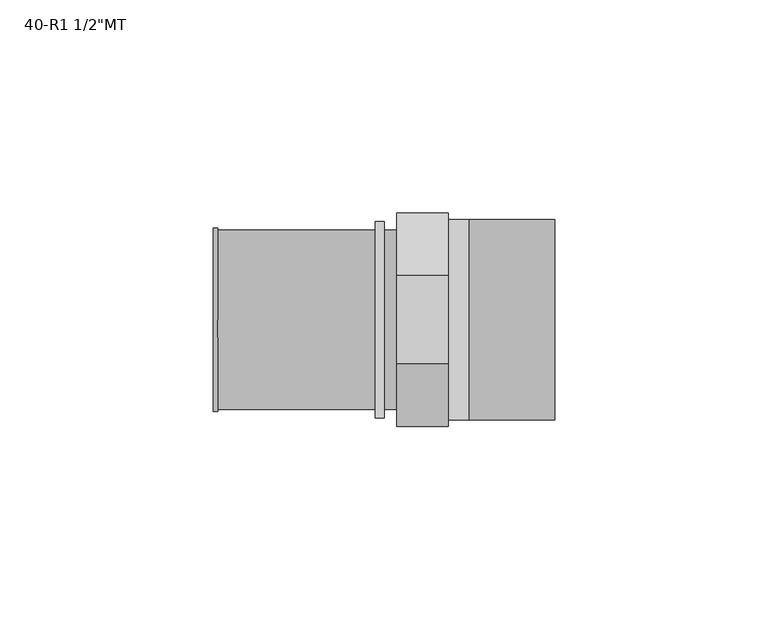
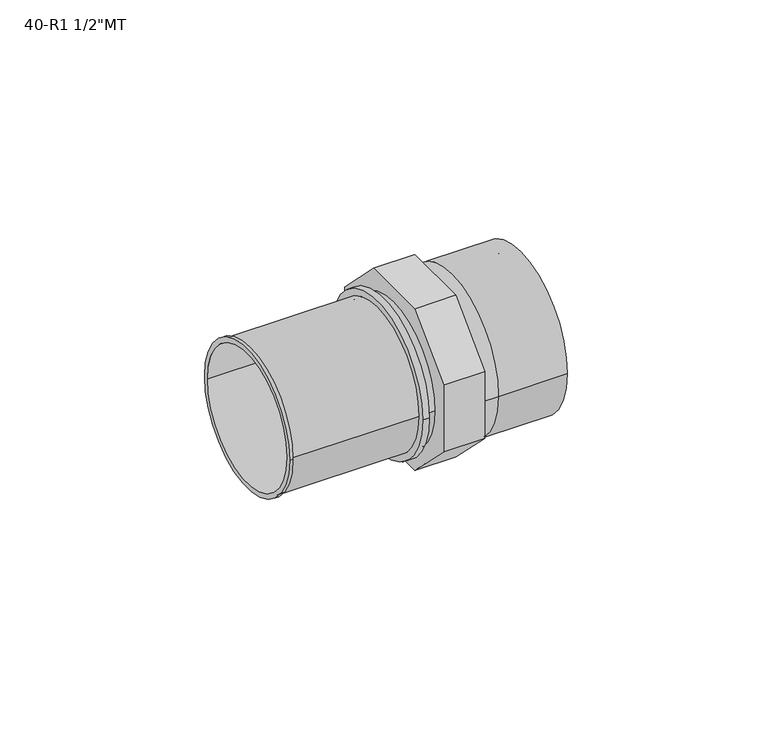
"""IFC4 building model written with IfcOpenShell, lengths in millimetres: pipe fitting geometry."""

from ifc_helpers import new_model, si_unit, point, frame, origin, origin_2d, place, context, project, spatial, polyline, circle_curve, trimmed, segment, composite_curve, outline, extrude, source, transform, mapped, element, save
from ifc_brep_helpers import plane_surface, cylinder_surface, revolved_surface, advanced_brep


def pipe_fitting_285861eb(model_context):
    return source(origin(), model_context, "Body", "SolidModel", [
        advanced_brep(
        [(-6.0, -25.0, 10.3553391), (-6.0, -10.3553391, 25.0), (-6.0, 10.3553391, 25.0), (-6.0, 25.0, 10.3553391), (-6.0, 25.0, -10.3553391), (-6.0, 10.3553391, -25.0), (-6.0, -10.3553391, -25.0), (-6.0, -25.0, -10.3553391), (6.0, -25.0, 10.3553391), (6.0, -25.0, -10.3553391), (6.0, -10.3553391, -25.0), (6.0, 10.3553391, -25.0), (6.0, 25.0, -10.3553391), (6.0, 25.0, 10.3553391), (6.0, 10.3553391, 25.0), (6.0, -10.3553391, 25.0), (6.0, -23.5, 0.0), (6.0, 23.5, 0.0), (31.0, -23.5, 0.0), (31.0, 23.5, 0.0), (31.0, -19.5, 0.0), (31.0, 19.5, 0.0), (12.0, 19.5, 0.0), (12.0, -19.5, 0.0), (12.0, 23.5, 0.0), (11.0, 23.5, 0.0), (11.0, -23.5, 0.0), (12.0, -23.5, 0.0)],
        [
            (0, 1),
            (1, 2),
            (2, 3),
            (3, 4),
            (4, 5),
            (5, 6),
            (6, 7),
            (7, 0),
            (8, 9),
            (9, 10),
            (10, 11),
            (11, 12),
            (12, 13),
            (13, 14),
            (14, 15),
            (15, 8),
            (16, 17, circle_curve(frame((6.0, 0.0, 0.0), z_axis=(-1.0, 0.0, 0.0), x_axis=(0.0, -1.0, 0.0)), 23.5)),
            (17, 16, circle_curve(frame((6.0, 0.0, 0.0), z_axis=(-1.0, 0.0, 0.0), x_axis=(0.0, -1.0, 0.0)), 23.5)),
            (0, 8),
            (15, 1),
            (14, 2),
            (13, 3),
            (12, 4),
            (11, 5),
            (10, 6),
            (9, 7),
            (18, 19, circle_curve(frame((31.0, 0.0, 0.0), z_axis=(1.0, 0.0, 0.0), x_axis=(0.0, 1.0, 0.0)), 23.5)),
            (19, 18, circle_curve(frame((31.0, 0.0, 0.0), z_axis=(1.0, 0.0, 0.0), x_axis=(0.0, 1.0, 0.0)), 23.5)),
            (20, 21, circle_curve(frame((31.0, 0.0, 0.0), z_axis=(-1.0, 0.0, 0.0), x_axis=(0.0, 1.0, 0.0)), 19.5)),
            (21, 20, circle_curve(frame((31.0, 0.0, 0.0), z_axis=(-1.0, 0.0, 0.0), x_axis=(0.0, 1.0, 0.0)), 19.5)),
            (21, 22),
            (22, 23, circle_curve(frame((12.0, 0.0, 0.0), z_axis=(-1.0, 0.0, 0.0), x_axis=(0.0, 1.0, 0.0)), 19.5)),
            (23, 20),
            (23, 22, circle_curve(frame((12.0, 0.0, 0.0), z_axis=(-1.0, 0.0, 0.0), x_axis=(0.0, 1.0, 0.0)), 19.5)),
            (19, 24),
            (24, 25),
            (25, 26, circle_curve(frame((11.0, 0.0, 0.0), z_axis=(1.0, 0.0, 0.0), x_axis=(0.0, 1.0, 0.0)), 23.5)),
            (26, 27),
            (27, 18),
            (26, 25, circle_curve(frame((11.0, 0.0, 0.0), z_axis=(1.0, 0.0, 0.0), x_axis=(0.0, 1.0, 0.0)), 23.5)),
            (16, 26),
            (25, 17),
        ],
        [
            plane_surface(frame((-6.0, 0.0, 0.0), z_axis=(-1.0, 0.0, 0.0), x_axis=(0.0, 0.0, 1.0))),
            plane_surface(frame((6.0, 0.0, 0.0), z_axis=(1.0, 0.0, 0.0), x_axis=(0.0, 0.0, 1.0))),
            plane_surface(frame((-6.0, -25.0, 10.3553391), z_axis=(0.0, -0.7071067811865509, 0.7071067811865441), x_axis=(1.0, 0.0, 0.0))),
            plane_surface(frame((-6.0, -10.3553391, 25.0), z_axis=(0.0, 0.0, 1.0), x_axis=(1.0, 0.0, 0.0))),
            plane_surface(frame((-6.0, 10.3553391, 25.0), z_axis=(0.0, 0.707106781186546, 0.7071067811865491), x_axis=(1.0, 0.0, 0.0))),
            plane_surface(frame((-6.0, 25.0, 10.3553391), z_axis=(0.0, 1.0, 0.0), x_axis=(1.0, 0.0, 0.0))),
            plane_surface(frame((-6.0, 25.0, -10.3553391), z_axis=(0.0, 0.7071067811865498, -0.7071067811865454), x_axis=(1.0, 0.0, 0.0))),
            plane_surface(frame((-6.0, 10.3553391, -25.0), z_axis=(0.0, 0.0, -1.0), x_axis=(1.0, 0.0, 0.0))),
            plane_surface(frame((-6.0, -10.3553391, -25.0), z_axis=(0.0, -0.7071067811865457, -0.7071067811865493), x_axis=(1.0, 0.0, 0.0))),
            plane_surface(frame((-6.0, -25.0, -10.3553391), z_axis=(0.0, -1.0, 0.0), x_axis=(1.0, 0.0, 0.0))),
            plane_surface(frame((31.0, 0.0, 0.0), z_axis=(1.0, 0.0, 0.0), x_axis=(0.0, 0.0, 1.0))),
            revolved_surface(polyline([(31.0, 19.5, 0.0), (12.0, 19.5, 0.0)]), (11.0, 0.0, 0.0), (1.0, 0.0, 0.0)),
            cylinder_surface(frame((11.0, 0.0, 0.0), z_axis=(-1.0, 0.0, 0.0), x_axis=(0.0, 1.0, 0.0)), 23.5),
            plane_surface(frame((12.0, 0.0, 0.0), z_axis=(1.0, 0.0, 0.0), x_axis=(0.0, 0.0, 1.0))),
            cylinder_surface(frame((12.0, 0.0, 0.0), z_axis=(1.0, 0.0, 0.0), x_axis=(0.0, -1.0, 0.0)), 23.5),
        ],
        [
            (0, [[1, 2, 3, 4, 5, 6, 7, 8]]),
            (1, [[9, 10, 11, 12, 13, 14, 15, 16], [17, 18]]),
            (2, [[-1, 19, -16, 20]]),
            (3, [[-2, -20, -15, 21]]),
            (4, [[-3, -21, -14, 22]]),
            (5, [[-4, -22, -13, 23]]),
            (6, [[-5, -23, -12, 24]]),
            (7, [[-6, -24, -11, 25]]),
            (8, [[-7, -25, -10, 26]]),
            (9, [[-8, -26, -9, -19]]),
            (10, [[27, 28], [29, 30]]),
            (11, [[-30, 31, 32, 33]]),
            (11, [[-29, -33, 34, -31]]),
            (12, [[-28, 35, 36, 37, 38, 39]]),
            (12, [[-27, -39, -38, 40, -36, -35]]),
            (13, [[-32, -34]]),
            (14, [[41, -37, 42, -17]]),
            (14, [[-41, -18, -42, -40]]),
        ],
    ),
        advanced_brep(
        [(-49.0, -21.5, 0.0), (-49.0, 21.5, 0.0), (-49.0, -20.0, 0.0), (-49.0, 20.0, 0.0), (-11.0, -21.0, 0.0), (-11.0, 21.0, 0.0), (-11.0, -20.0, 0.0), (-11.0, 20.0, 0.0), (-48.0, 21.0, 0.0), (-48.0, -21.0, 0.0), (-48.0, -21.5, 0.0), (-48.0, 21.5, 0.0)],
        [
            (0, 1, circle_curve(frame((-49.0, 0.0, 0.0), z_axis=(-1.0, 0.0, 0.0), x_axis=(0.0, 1.0, 0.0)), 21.5)),
            (1, 0, circle_curve(frame((-49.0, 0.0, 0.0), z_axis=(-1.0, 0.0, 0.0), x_axis=(0.0, 1.0, 0.0)), 21.5)),
            (2, 3, circle_curve(frame((-49.0, 0.0, 0.0), z_axis=(1.0, 0.0, 0.0), x_axis=(0.0, 1.0, 0.0)), 20.0)),
            (3, 2, circle_curve(frame((-49.0, 0.0, 0.0), z_axis=(1.0, 0.0, 0.0), x_axis=(0.0, 1.0, 0.0)), 20.0)),
            (4, 5, circle_curve(frame((-11.0, 0.0, 0.0), z_axis=(1.0, 0.0, 0.0), x_axis=(0.0, 1.0, 0.0)), 21.0)),
            (5, 4, circle_curve(frame((-11.0, 0.0, 0.0), z_axis=(1.0, 0.0, 0.0), x_axis=(0.0, 1.0, 0.0)), 21.0)),
            (6, 7, circle_curve(frame((-11.0, 0.0, 0.0), z_axis=(-1.0, 0.0, 0.0), x_axis=(0.0, 1.0, 0.0)), 20.0)),
            (7, 6, circle_curve(frame((-11.0, 0.0, 0.0), z_axis=(-1.0, 0.0, 0.0), x_axis=(0.0, 1.0, 0.0)), 20.0)),
            (2, 6),
            (7, 3),
            (5, 8),
            (8, 9, circle_curve(frame((-48.0, 0.0, 0.0), z_axis=(1.0, 0.0, 0.0), x_axis=(0.0, 1.0, 0.0)), 21.0)),
            (9, 4),
            (9, 8, circle_curve(frame((-48.0, 0.0, 0.0), z_axis=(1.0, 0.0, 0.0), x_axis=(0.0, 1.0, 0.0)), 21.0)),
            (10, 11, circle_curve(frame((-48.0, 0.0, 0.0), z_axis=(1.0, 0.0, 0.0), x_axis=(0.0, 1.0, 0.0)), 21.5)),
            (11, 10, circle_curve(frame((-48.0, 0.0, 0.0), z_axis=(1.0, 0.0, 0.0), x_axis=(0.0, 1.0, 0.0)), 21.5)),
            (0, 10),
            (11, 1),
        ],
        [
            plane_surface(frame((-49.0, 0.0, 0.0), z_axis=(-1.0, 0.0, 0.0), x_axis=(0.0, 0.0, 1.0))),
            plane_surface(frame((-11.0, 0.0, 0.0), z_axis=(1.0, 0.0, 0.0), x_axis=(0.0, 0.0, 1.0))),
            revolved_surface(polyline([(-11.0, 20.0, 0.0), (-49.0, 20.0, 0.0)]), (-49.0, 0.0, 0.0), (1.0, 0.0, 0.0)),
            cylinder_surface(frame((-49.0, 0.0, 0.0), z_axis=(-1.0, 0.0, 0.0), x_axis=(0.0, 1.0, 0.0)), 21.0),
            plane_surface(frame((-48.0, 0.0, 0.0), z_axis=(1.0, 0.0, 0.0), x_axis=(0.0, 0.0, 1.0))),
            cylinder_surface(frame((-49.0, 0.0, 0.0), z_axis=(-1.0, 0.0, 0.0), x_axis=(0.0, 1.0, 0.0)), 21.5),
        ],
        [
            (0, [[1, 2], [3, 4]]),
            (1, [[5, 6], [7, 8]]),
            (2, [[-3, 9, -8, 10]]),
            (2, [[-4, -10, -7, -9]]),
            (3, [[-6, 11, 12, 13]]),
            (3, [[-5, -13, 14, -11]]),
            (4, [[15, 16], [-12, -14]]),
            (5, [[-1, 17, -16, 18]]),
            (5, [[-2, -18, -15, -17]]),
        ],
    ),
        extrude(outline(composite_curve([segment(trimmed(circle_curve(origin_2d(), 23.0), [point((-23.0, 0.0))], [point((23.0, 0.0))], False, "CARTESIAN"), True, "CONTINUOUS"), segment(trimmed(circle_curve(origin_2d(), 23.0), [point((23.0, 0.0))], [point((-23.0, 0.0))], False, "CARTESIAN"), True, "CONTINUOUS")], self_intersect=False), holes=[composite_curve([segment(trimmed(circle_curve(origin_2d(), 20.0), [point((-20.0, 0.0))], [point((20.0, 0.0))], True, "CARTESIAN"), True, "CONTINUOUS"), segment(trimmed(circle_curve(origin_2d(), 20.0), [point((20.0, 0.0))], [point((-20.0, 0.0))], True, "CARTESIAN"), True, "CONTINUOUS")], self_intersect=False)]), frame((-11.0, 0.0, 0.0), z_axis=(1.0, 0.0, 0.0), x_axis=(0.0, 1.0, 0.0)), (0.0, 0.0, 1.0), 2.0),
        extrude(outline(composite_curve([segment(trimmed(circle_curve(origin_2d(), 21.0), [point((-21.0, 0.0))], [point((21.0, 0.0))], False, "CARTESIAN"), True, "CONTINUOUS"), segment(trimmed(circle_curve(origin_2d(), 21.0), [point((21.0, 0.0))], [point((-21.0, 0.0))], False, "CARTESIAN"), True, "CONTINUOUS")], self_intersect=False)), frame((-9.0, 0.0, 0.0), z_axis=(1.0, 0.0, 0.0), x_axis=(0.0, 1.0, 0.0)), (0.0, 0.0, 1.0), 3.0),
    ])


if __name__ == "__main__":
    model = new_model("IFC4")
    model_context = context("Model", 3, world=origin())
    ifc_project = project(units=[si_unit("LENGTHUNIT", "METRE", prefix="MILLI")], contexts=[model_context])
    site = spatial("IfcSite", under=ifc_project)
    building = spatial("IfcBuilding", under=site)
    placement = place(None, origin())
    pipe_fitting_shape = pipe_fitting_285861eb(model_context)
    element("IfcPipeFitting", 1, ObjectType="SuperPipe_AdapterMT : 40-R1 1/2\"MT", at=placement, inside=building, context=model_context, shape_type="MappedRepresentation", body=[
        mapped(pipe_fitting_shape, transform((0.0, 0.0, 0.0), x_axis=(1.0, 0.0, 0.0), y_axis=(0.0, 1.0, 0.0), z_axis=(0.0, 0.0, 1.0))),
    ])
    save(model, "model.ifc")
